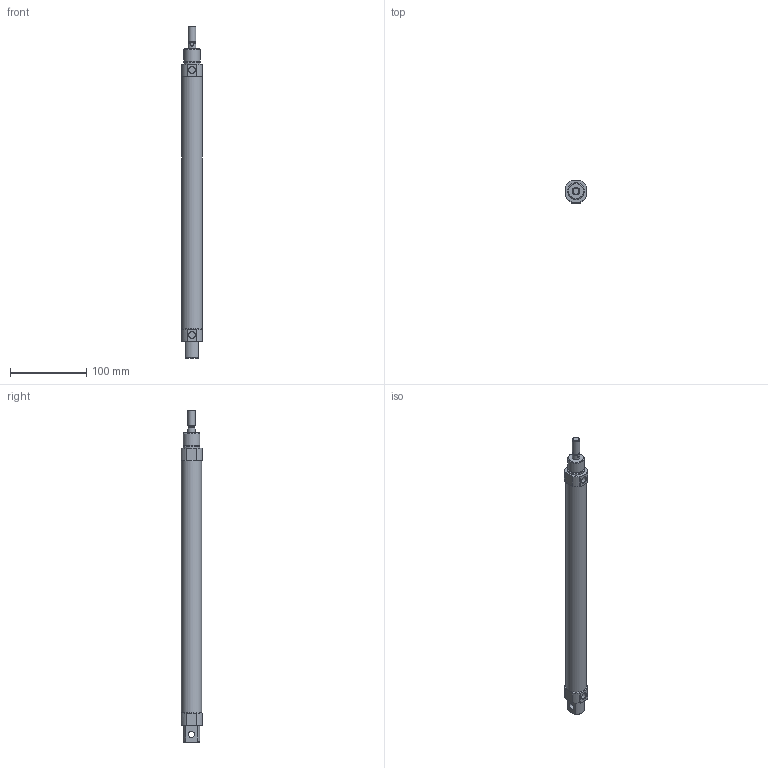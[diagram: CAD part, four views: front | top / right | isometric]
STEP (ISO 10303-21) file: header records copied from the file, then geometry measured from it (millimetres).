
FILE_DESCRIPTION((''),'2;1');
FILE_NAME('I:\3D電子目錄\氣缸\SDA\SDA25\SDA25\SDA25x300.stp','2007-08-06T10:33:23',('Administrator'),(''),'Autodesk Inventor 2008','Autodesk Inventor 2008','');
FILE_SCHEMA(('AUTOMOTIVE_DESIGN { 1 0 10303 214 1 1 1 1 }'));
Length unit declared in the file: millimetre
Products named in the file (1): SDA25X300
Bounding box: 27 x 28.5 x 436 mm (x, y, z)
Volume: 220857.9 mm3; surface area: 37094.6 mm2
Topology: 1 solids, 1 shells, 62 faces, 146 edges, 94 vertices
Faces by surface type: plane 30, cylinder 19, cone 10, bspline 2, torus 1
Full cylindrical faces by diameter (mm): 8 x1, 8.5 x2, 8.6 x1, 10 x2, 22 x2, 26.6 x1
Entity records: 1718 total; most frequent: CARTESIAN_POINT 307, DIRECTION 298, ORIENTED_EDGE 258, EDGE_CURVE 129, AXIS2_PLACEMENT_3D 116, VERTEX_POINT 93, EDGE_LOOP 88, VECTOR 66
